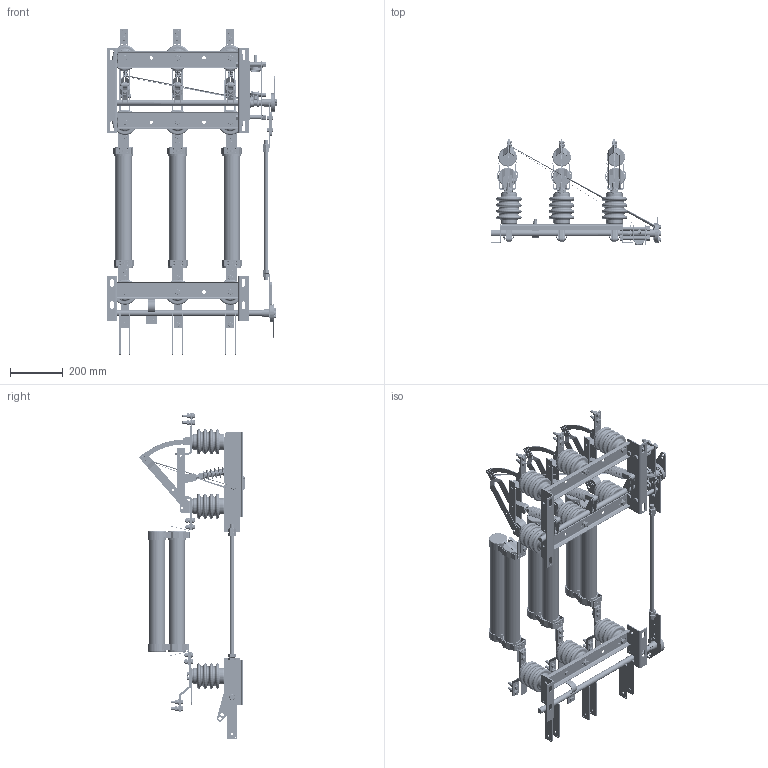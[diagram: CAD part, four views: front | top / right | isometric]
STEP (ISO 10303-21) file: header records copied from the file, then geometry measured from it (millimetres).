
FILE_DESCRIPTION (( 'STEP AP214' ), '1' );
FILE_NAME ('Âûêëþ÷àòåëü íàãðóçêè ÂÍÀ-10400-Ë-ç-ÏÒ1.3-È2-ÓÕË2-ÊÝÀÇ.STEP', '2023-02-01T07:03:29', ( '' ), ( '' ), 'SwSTEP 2.0', 'SolidWorks 2018', '' );
FILE_SCHEMA (( 'AUTOMOTIVE_DESIGN' ));
Length unit declared in the file: millimetre
Products named in the file (1): Âûêëþ÷àòåëü íàãðóçêè ÂÍÀ-10400-Ë-ç-ÏÒ1.3-È2-ÓÕË2-ÊÝÀÇ
Bounding box: 647.2 x 402.34 x 1237.98 mm (x, y, z)
Volume: 17782448.1 mm3; surface area: 2628138.9 mm2
Topology: 28 solids, 59 shells, 6024 faces, 15149 edges, 9551 vertices
Faces by surface type: plane 2980, cylinder 2020, cone 722, torus 296, bspline 6
Full cylindrical faces by diameter (mm): 4.2 x24, 8.2 x2, 8.993 x5, 9 x6, 9.5 x18, 10.8 x26, 12.35 x14, 12.704 x1, 12.915 x1, 12.977 x1, 13.051 x3, 14.508 x4, 15.19 x4, 16 x1, 16.205 x4, 17.1 x3, 20 x12, 22 x3, 62 x3, 70 x13
Entity records: 219999 total; most frequent: CARTESIAN_POINT 75538, DIRECTION 30485, ORIENTED_EDGE 29832, EDGE_CURVE 14916, AXIS2_PLACEMENT_3D 11627, VERTEX_POINT 9466, VECTOR 7231, LINE 7231
